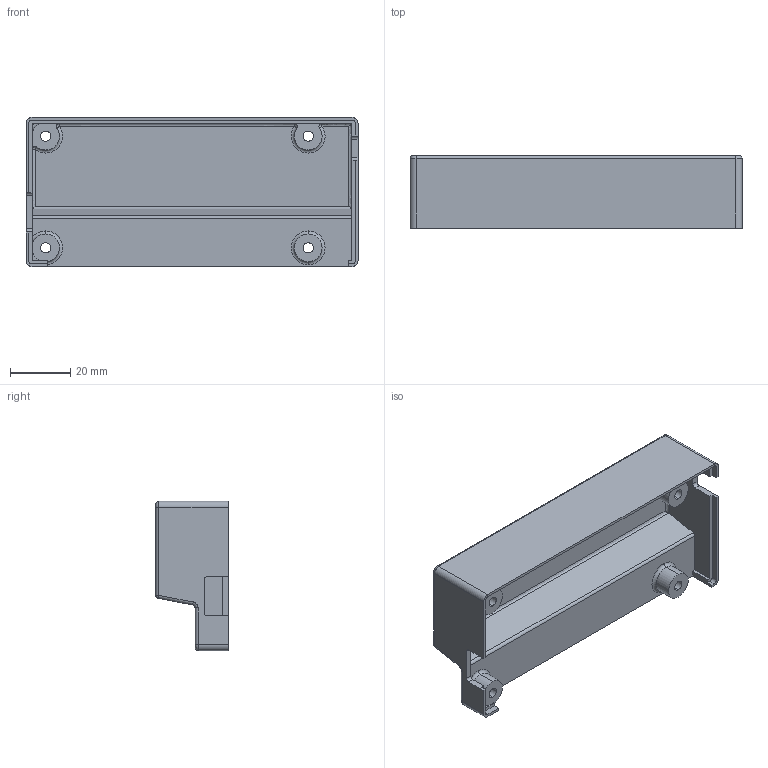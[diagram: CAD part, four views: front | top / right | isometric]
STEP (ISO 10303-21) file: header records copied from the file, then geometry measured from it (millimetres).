
FILE_DESCRIPTION (( 'STEP AP214' ), '1' );
FILE_NAME ('StationaryLogger_Enclosure_V4_TextSide.STEP', '2025-05-08T20:31:12', ( '' ), ( '' ), 'SwSTEP 2.0', 'SolidWorks 2024', '' );
FILE_SCHEMA (( 'AUTOMOTIVE_DESIGN' ));
Length unit declared in the file: millimetre
Products named in the file (1): StationaryLogger_Enclosure_V4_TextSide
Bounding box: 110 x 24 x 49.5 mm (x, y, z)
Volume: 22440 mm3; surface area: 23680.4 mm2
Topology: 2 solids, 2 shells, 612 faces, 1681 edges, 1060 vertices
Faces by surface type: plane 432, bspline 102, cylinder 51, torus 21, sphere 6
Entity records: 26058 total; most frequent: CARTESIAN_POINT 11213, ORIENTED_EDGE 3350, DIRECTION 2584, EDGE_CURVE 1675, LINE 1280, VECTOR 1280, VERTEX_POINT 1060, EDGE_LOOP 657
